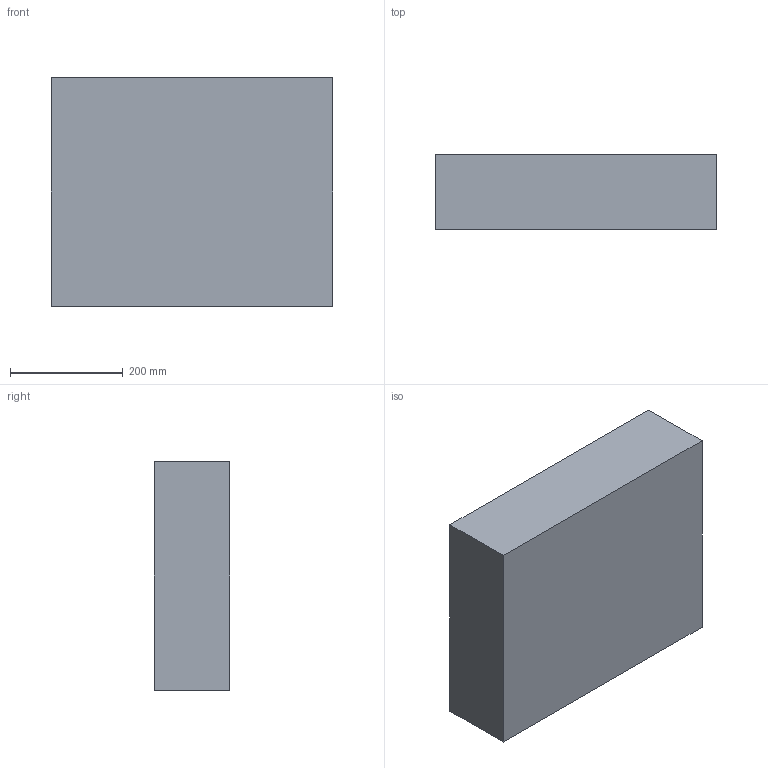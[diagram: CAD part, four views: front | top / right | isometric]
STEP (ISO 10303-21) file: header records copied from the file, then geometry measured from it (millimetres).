
FILE_DESCRIPTION (( 'STEP AP203' ), '1' );
FILE_NAME ('NANUK 930_BOTTOM.STEP', '2011-08-30T13:40:46', ( '' ), ( '' ), 'SwSTEP 2.0', 'SolidWorks 2011', '' );
FILE_SCHEMA (( 'CONFIG_CONTROL_DESIGN' ));
Length unit declared in the file: inch
Products named in the file (1): NANUK 930_BOTTOM
Bounding box: 499.62 x 133.95 x 405.8 mm (x, y, z)
Volume: 8596474.6 mm3; surface area: 825114.5 mm2
Topology: 1 solids, 1 shells, 468 faces, 1111 edges, 652 vertices
Faces by surface type: bspline 210, cylinder 170, plane 60, torus 20, cone 4, sphere 4
Entity records: 29602 total; most frequent: CARTESIAN_POINT 20436, ORIENTED_EDGE 2182, DIRECTION 1544, EDGE_CURVE 1091, AXIS2_PLACEMENT_3D 648, VERTEX_POINT 648, EDGE_LOOP 491, FACE_OUTER_BOUND 468
